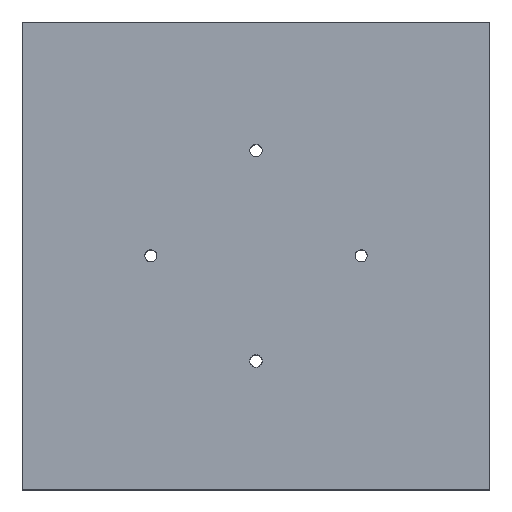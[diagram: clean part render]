
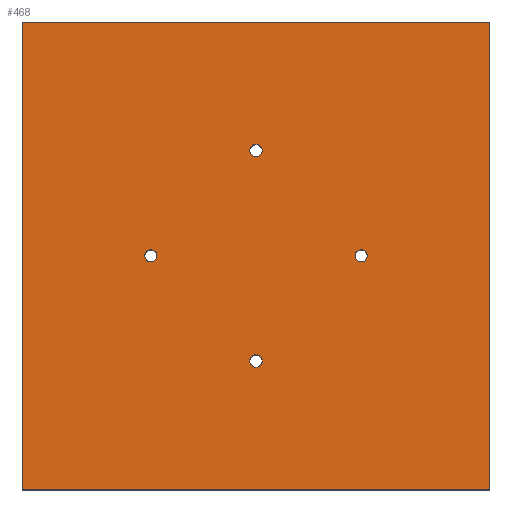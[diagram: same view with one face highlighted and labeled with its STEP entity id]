
A CAD part, top view. The second image highlights one B-rep face of the part: STEP entity #468.
In plain terms, the highlighted planar face has unit normal (0, 0, 1).
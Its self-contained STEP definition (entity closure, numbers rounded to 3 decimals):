
#9 = VERTEX_POINT ( 'NONE', #1803 ) ;
#18 = ORIENTED_EDGE ( 'NONE', *, *, #151, .F. ) ;
#29 = CARTESIAN_POINT ( 'NONE',  ( 18.1, 0., 17.5 ) ) ;
#74 = ORIENTED_EDGE ( 'NONE', *, *, #1045, .F. ) ;
#78 = AXIS2_PLACEMENT_3D ( 'NONE', #1738, #1760, #752 ) ;
#88 = EDGE_LOOP ( 'NONE', ( #933, #1151 ) ) ;
#133 = AXIS2_PLACEMENT_3D ( 'NONE', #1158, #322, #334 ) ;
#146 = CARTESIAN_POINT ( 'NONE',  ( -38., 38., 17.5 ) ) ;
#151 = EDGE_CURVE ( 'NONE', #2110, #9, #549, .T. ) ;
#192 = CARTESIAN_POINT ( 'NONE',  ( -38., -38., 17.5 ) ) ;
#199 = CIRCLE ( 'NONE', #265, 1. ) ;
#218 = EDGE_LOOP ( 'NONE', ( #1965, #74 ) ) ;
#253 = CARTESIAN_POINT ( 'NONE',  ( -16.1, 0., 17.5 ) ) ;
#261 = ORIENTED_EDGE ( 'NONE', *, *, #1541, .F. ) ;
#265 = AXIS2_PLACEMENT_3D ( 'NONE', #1028, #1225, #1876 ) ;
#272 = ORIENTED_EDGE ( 'NONE', *, *, #962, .T. ) ;
#279 = VERTEX_POINT ( 'NONE', #855 ) ;
#289 = EDGE_LOOP ( 'NONE', ( #453, #18 ) ) ;
#313 = DIRECTION ( 'NONE',  ( 0., 0., 1. ) ) ;
#322 = DIRECTION ( 'NONE',  ( 0., 0., 1. ) ) ;
#334 = DIRECTION ( 'NONE',  ( 1., 0., 0. ) ) ;
#342 = CARTESIAN_POINT ( 'NONE',  ( 1., -17.1, 17.5 ) ) ;
#372 = CIRCLE ( 'NONE', #2037, 1. ) ;
#383 = VERTEX_POINT ( 'NONE', #342 ) ;
#396 = ORIENTED_EDGE ( 'NONE', *, *, #850, .F. ) ;
#436 = AXIS2_PLACEMENT_3D ( 'NONE', #515, #1820, #989 ) ;
#453 = ORIENTED_EDGE ( 'NONE', *, *, #1065, .F. ) ;
#468 = ADVANCED_FACE ( 'NONE', ( #843, #1984, #493, #1510, #2159 ), #1156, .T. ) ;
#470 = EDGE_LOOP ( 'NONE', ( #396, #261 ) ) ;
#475 = CARTESIAN_POINT ( 'NONE',  ( -1., 17.1, 17.5 ) ) ;
#493 = FACE_BOUND ( 'NONE', #218, .T. ) ;
#515 = CARTESIAN_POINT ( 'NONE',  ( 0., 0., 17.5 ) ) ;
#525 = VERTEX_POINT ( 'NONE', #29 ) ;
#540 = AXIS2_PLACEMENT_3D ( 'NONE', #1777, #927, #908 ) ;
#549 = CIRCLE ( 'NONE', #1445, 1. ) ;
#561 = LINE ( 'NONE', #1559, #662 ) ;
#634 = VERTEX_POINT ( 'NONE', #1799 ) ;
#662 = VECTOR ( 'NONE', #1375, 1000. ) ;
#682 = CARTESIAN_POINT ( 'NONE',  ( 38., 38., 17.5 ) ) ;
#722 = DIRECTION ( 'NONE',  ( 0., 0., 1. ) ) ;
#751 = CARTESIAN_POINT ( 'NONE',  ( 16.1, 0., 17.5 ) ) ;
#752 = DIRECTION ( 'NONE',  ( 1., 0., 0. ) ) ;
#829 = ORIENTED_EDGE ( 'NONE', *, *, #1722, .T. ) ;
#843 = FACE_BOUND ( 'NONE', #289, .T. ) ;
#850 = EDGE_CURVE ( 'NONE', #525, #2063, #1500, .T. ) ;
#855 = CARTESIAN_POINT ( 'NONE',  ( -38., -38., 17.5 ) ) ;
#869 = DIRECTION ( 'NONE',  ( 1., 0., 0. ) ) ;
#899 = VERTEX_POINT ( 'NONE', #1632 ) ;
#908 = DIRECTION ( 'NONE',  ( 1., 0., 0. ) ) ;
#917 = CARTESIAN_POINT ( 'NONE',  ( 17.1, 0., 17.5 ) ) ;
#927 = DIRECTION ( 'NONE',  ( 0., 0., 1. ) ) ;
#933 = ORIENTED_EDGE ( 'NONE', *, *, #1610, .F. ) ;
#962 = EDGE_CURVE ( 'NONE', #634, #279, #1468, .T. ) ;
#966 = DIRECTION ( 'NONE',  ( 1., 0., 0. ) ) ;
#989 = DIRECTION ( 'NONE',  ( 1., 0., 0. ) ) ;
#1013 = CARTESIAN_POINT ( 'NONE',  ( -1., -17.1, 17.5 ) ) ;
#1028 = CARTESIAN_POINT ( 'NONE',  ( 0., 17.1, 17.5 ) ) ;
#1031 = CIRCLE ( 'NONE', #1866, 1. ) ;
#1045 = EDGE_CURVE ( 'NONE', #1355, #383, #1031, .T. ) ;
#1065 = EDGE_CURVE ( 'NONE', #9, #2110, #199, .T. ) ;
#1071 = EDGE_CURVE ( 'NONE', #279, #1175, #1886, .T. ) ;
#1128 = EDGE_CURVE ( 'NONE', #1428, #634, #561, .T. ) ;
#1151 = ORIENTED_EDGE ( 'NONE', *, *, #1516, .F. ) ;
#1156 = PLANE ( 'NONE',  #436 ) ;
#1158 = CARTESIAN_POINT ( 'NONE',  ( 0., -17.1, 17.5 ) ) ;
#1175 = VERTEX_POINT ( 'NONE', #2098 ) ;
#1180 = CARTESIAN_POINT ( 'NONE',  ( 38., 38., 17.5 ) ) ;
#1207 = VECTOR ( 'NONE', #2141, 1000. ) ;
#1225 = DIRECTION ( 'NONE',  ( 0., 0., 1. ) ) ;
#1235 = DIRECTION ( 'NONE',  ( 0., 0., 1. ) ) ;
#1250 = DIRECTION ( 'NONE',  ( 0., 0., 1. ) ) ;
#1328 = CARTESIAN_POINT ( 'NONE',  ( 0., 17.1, 17.5 ) ) ;
#1331 = EDGE_CURVE ( 'NONE', #383, #1355, #1979, .T. ) ;
#1355 = VERTEX_POINT ( 'NONE', #1013 ) ;
#1375 = DIRECTION ( 'NONE',  ( -1., 0., 0. ) ) ;
#1412 = CARTESIAN_POINT ( 'NONE',  ( -17.1, 0., 17.5 ) ) ;
#1428 = VERTEX_POINT ( 'NONE', #1180 ) ;
#1445 = AXIS2_PLACEMENT_3D ( 'NONE', #1328, #722, #2075 ) ;
#1453 = DIRECTION ( 'NONE',  ( 0., 1., 0. ) ) ;
#1459 = ORIENTED_EDGE ( 'NONE', *, *, #1128, .T. ) ;
#1468 = LINE ( 'NONE', #146, #1207 ) ;
#1500 = CIRCLE ( 'NONE', #78, 1. ) ;
#1510 = FACE_BOUND ( 'NONE', #88, .T. ) ;
#1516 = EDGE_CURVE ( 'NONE', #899, #1879, #2140, .T. ) ;
#1541 = EDGE_CURVE ( 'NONE', #2063, #525, #1753, .T. ) ;
#1542 = VECTOR ( 'NONE', #1453, 1000. ) ;
#1559 = CARTESIAN_POINT ( 'NONE',  ( -38., 38., 17.5 ) ) ;
#1595 = DIRECTION ( 'NONE',  ( 1., 0., 0. ) ) ;
#1610 = EDGE_CURVE ( 'NONE', #1879, #899, #372, .T. ) ;
#1632 = CARTESIAN_POINT ( 'NONE',  ( -18.1, 0., 17.5 ) ) ;
#1722 = EDGE_CURVE ( 'NONE', #1175, #1428, #1804, .T. ) ;
#1738 = CARTESIAN_POINT ( 'NONE',  ( 17.1, 0., 17.5 ) ) ;
#1753 = CIRCLE ( 'NONE', #1962, 1. ) ;
#1760 = DIRECTION ( 'NONE',  ( 0., 0., 1. ) ) ;
#1764 = DIRECTION ( 'NONE',  ( 1., 0., 0. ) ) ;
#1777 = CARTESIAN_POINT ( 'NONE',  ( -17.1, 0., 17.5 ) ) ;
#1799 = CARTESIAN_POINT ( 'NONE',  ( -38., 38., 17.5 ) ) ;
#1803 = CARTESIAN_POINT ( 'NONE',  ( 1., 17.1, 17.5 ) ) ;
#1804 = LINE ( 'NONE', #682, #1542 ) ;
#1820 = DIRECTION ( 'NONE',  ( 0., 0., 1. ) ) ;
#1866 = AXIS2_PLACEMENT_3D ( 'NONE', #2011, #313, #966 ) ;
#1876 = DIRECTION ( 'NONE',  ( 1., 0., 0. ) ) ;
#1879 = VERTEX_POINT ( 'NONE', #253 ) ;
#1886 = LINE ( 'NONE', #192, #1968 ) ;
#1932 = ORIENTED_EDGE ( 'NONE', *, *, #1071, .T. ) ;
#1950 = EDGE_LOOP ( 'NONE', ( #272, #1932, #829, #1459 ) ) ;
#1962 = AXIS2_PLACEMENT_3D ( 'NONE', #917, #1250, #1595 ) ;
#1965 = ORIENTED_EDGE ( 'NONE', *, *, #1331, .F. ) ;
#1968 = VECTOR ( 'NONE', #869, 1000. ) ;
#1979 = CIRCLE ( 'NONE', #133, 1. ) ;
#1984 = FACE_BOUND ( 'NONE', #470, .T. ) ;
#2011 = CARTESIAN_POINT ( 'NONE',  ( 0., -17.1, 17.5 ) ) ;
#2037 = AXIS2_PLACEMENT_3D ( 'NONE', #1412, #1235, #1764 ) ;
#2063 = VERTEX_POINT ( 'NONE', #751 ) ;
#2075 = DIRECTION ( 'NONE',  ( 1., 0., 0. ) ) ;
#2098 = CARTESIAN_POINT ( 'NONE',  ( 38., -38., 17.5 ) ) ;
#2110 = VERTEX_POINT ( 'NONE', #475 ) ;
#2140 = CIRCLE ( 'NONE', #540, 1. ) ;
#2141 = DIRECTION ( 'NONE',  ( 0., -1., 0. ) ) ;
#2159 = FACE_OUTER_BOUND ( 'NONE', #1950, .T. ) ;
